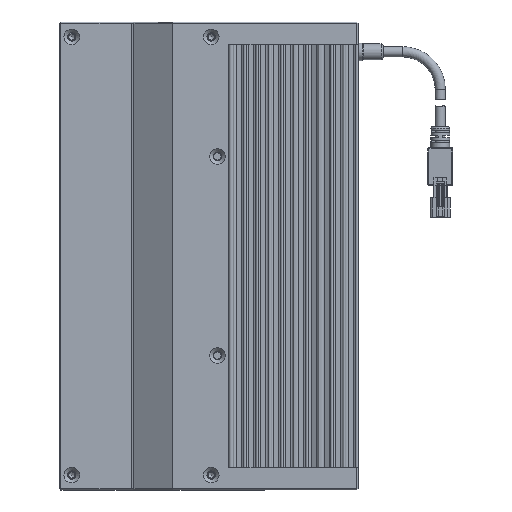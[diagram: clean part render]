
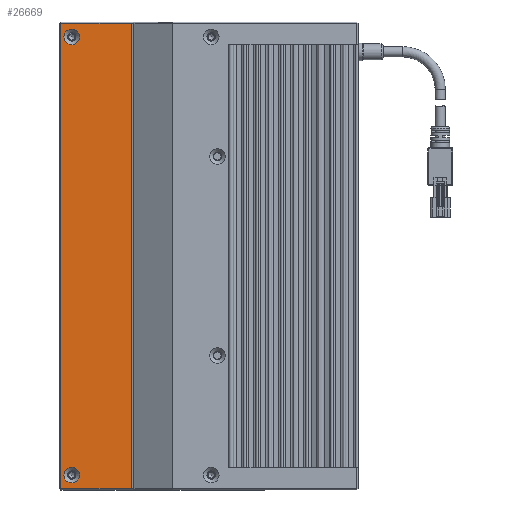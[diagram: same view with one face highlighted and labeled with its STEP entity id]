
A CAD part, left-side view. The second image highlights one B-rep face of the part: STEP entity #26669.
In plain terms, the highlighted planar face has unit normal (-1, 0, 0).
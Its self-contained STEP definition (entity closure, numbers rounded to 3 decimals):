
#210 = ORIENTED_EDGE ( 'NONE', *, *, #33099, .F. ) ;
#1495 = ORIENTED_EDGE ( 'NONE', *, *, #18472, .F. ) ;
#1822 = DIRECTION ( 'NONE',  ( -1., 0., 0. ) ) ;
#2490 = FACE_BOUND ( 'NONE', #19953, .T. ) ;
#2559 = VERTEX_POINT ( 'NONE', #10007 ) ;
#2629 = VERTEX_POINT ( 'NONE', #18208 ) ;
#3799 = VERTEX_POINT ( 'NONE', #7127 ) ;
#3818 = CARTESIAN_POINT ( 'NONE',  ( -15.462, -7.561, 120. ) ) ;
#3960 = CIRCLE ( 'NONE', #12615, 3.15 ) ;
#4113 = FACE_BOUND ( 'NONE', #5702, .T. ) ;
#4883 = AXIS2_PLACEMENT_3D ( 'NONE', #19487, #12017, #19396 ) ;
#5702 = EDGE_LOOP ( 'NONE', ( #11506 ) ) ;
#6625 = VERTEX_POINT ( 'NONE', #18901 ) ;
#7127 = CARTESIAN_POINT ( 'NONE',  ( -15.462, 16.939, 128.65 ) ) ;
#7874 = EDGE_CURVE ( 'NONE', #2629, #6625, #20991, .T. ) ;
#9007 = CARTESIAN_POINT ( 'NONE',  ( -15.462, 21.439, 305.5 ) ) ;
#9418 = EDGE_LOOP ( 'NONE', ( #1495, #32005, #210, #25933 ) ) ;
#10007 = CARTESIAN_POINT ( 'NONE',  ( -15.462, 16.939, 304.65 ) ) ;
#10209 = CARTESIAN_POINT ( 'NONE',  ( -15.462, -6.987, 120. ) ) ;
#10929 = CIRCLE ( 'NONE', #4883, 3.15 ) ;
#11506 = ORIENTED_EDGE ( 'NONE', *, *, #28904, .F. ) ;
#11705 = DIRECTION ( 'NONE',  ( 0., 0., -1. ) ) ;
#12017 = DIRECTION ( 'NONE',  ( -1., 0., 0. ) ) ;
#12615 = AXIS2_PLACEMENT_3D ( 'NONE', #32394, #1822, #17518 ) ;
#12774 = DIRECTION ( 'NONE',  ( 0., -1., 0. ) ) ;
#13062 = VECTOR ( 'NONE', #12774, 1000. ) ;
#13739 = FACE_OUTER_BOUND ( 'NONE', #9418, .T. ) ;
#16263 = LINE ( 'NONE', #29216, #20563 ) ;
#16617 = DIRECTION ( 'NONE',  ( 0., 1., 0. ) ) ;
#17518 = DIRECTION ( 'NONE',  ( 0., 0., 1. ) ) ;
#18208 = CARTESIAN_POINT ( 'NONE',  ( -15.462, 21.439, 307. ) ) ;
#18227 = EDGE_CURVE ( 'NONE', #31223, #18568, #31914, .T. ) ;
#18421 = VECTOR ( 'NONE', #16617, 1000. ) ;
#18472 = EDGE_CURVE ( 'NONE', #18568, #2629, #20313, .T. ) ;
#18564 = EDGE_CURVE ( 'NONE', #3799, #3799, #3960, .T. ) ;
#18568 = VERTEX_POINT ( 'NONE', #20029 ) ;
#18901 = CARTESIAN_POINT ( 'NONE',  ( -15.462, -6.987, 307. ) ) ;
#18926 = CARTESIAN_POINT ( 'NONE',  ( -15.462, -7.561, 305.5 ) ) ;
#19396 = DIRECTION ( 'NONE',  ( 0., 0., 1. ) ) ;
#19487 = CARTESIAN_POINT ( 'NONE',  ( -15.462, 16.939, 301.5 ) ) ;
#19953 = EDGE_LOOP ( 'NONE', ( #25676 ) ) ;
#20029 = CARTESIAN_POINT ( 'NONE',  ( -15.462, 21.439, 120. ) ) ;
#20313 = LINE ( 'NONE', #9007, #27890 ) ;
#20563 = VECTOR ( 'NONE', #11705, 1000. ) ;
#20991 = LINE ( 'NONE', #28020, #13062 ) ;
#21257 = PLANE ( 'NONE',  #24142 ) ;
#24142 = AXIS2_PLACEMENT_3D ( 'NONE', #18926, #26356, #28822 ) ;
#25676 = ORIENTED_EDGE ( 'NONE', *, *, #18564, .F. ) ;
#25933 = ORIENTED_EDGE ( 'NONE', *, *, #7874, .F. ) ;
#26356 = DIRECTION ( 'NONE',  ( 1., 0., 0. ) ) ;
#26669 = ADVANCED_FACE ( 'NONE', ( #2490, #4113, #13739 ), #21257, .F. ) ;
#26843 = DIRECTION ( 'NONE',  ( 0., 0., 1. ) ) ;
#27890 = VECTOR ( 'NONE', #26843, 1000. ) ;
#28020 = CARTESIAN_POINT ( 'NONE',  ( -15.462, -7.561, 307. ) ) ;
#28822 = DIRECTION ( 'NONE',  ( 0., 0., -1. ) ) ;
#28904 = EDGE_CURVE ( 'NONE', #2559, #2559, #10929, .T. ) ;
#29216 = CARTESIAN_POINT ( 'NONE',  ( -15.462, -6.987, 305.5 ) ) ;
#31223 = VERTEX_POINT ( 'NONE', #10209 ) ;
#31914 = LINE ( 'NONE', #3818, #18421 ) ;
#32005 = ORIENTED_EDGE ( 'NONE', *, *, #18227, .F. ) ;
#32394 = CARTESIAN_POINT ( 'NONE',  ( -15.462, 16.939, 125.5 ) ) ;
#33099 = EDGE_CURVE ( 'NONE', #6625, #31223, #16263, .T. ) ;
